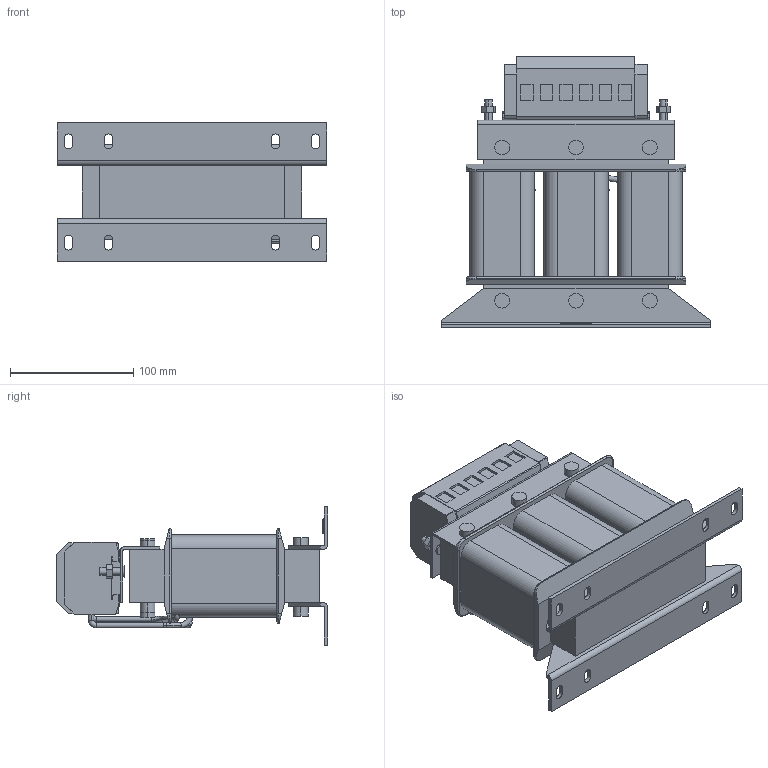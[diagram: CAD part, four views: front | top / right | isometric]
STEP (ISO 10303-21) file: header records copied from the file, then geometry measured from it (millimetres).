
FILE_DESCRIPTION (( 'STEP AP214' ), '1' );
FILE_NAME ('00Z1FX4-0018.STEP', '2022-08-15T13:51:17', ( '' ), ( '' ), 'SwSTEP 2.0', 'SolidWorks 2022', '' );
FILE_SCHEMA (( 'AUTOMOTIVE_DESIGN' ));
Length unit declared in the file: centimetre
Products named in the file (1): 00Z1FX4-0018
Bounding box: 219 x 220.8 x 112.3 mm (x, y, z)
Volume: 1831035.8 mm3; surface area: 209717 mm2
Topology: 1 solids, 1 shells, 486 faces, 1292 edges, 838 vertices
Faces by surface type: plane 238, cylinder 179, torus 47, bspline 22
Entity records: 17439 total; most frequent: CARTESIAN_POINT 5059, ORIENTED_EDGE 2584, DIRECTION 2470, EDGE_CURVE 1292, AXIS2_PLACEMENT_3D 885, VERTEX_POINT 838, VECTOR 700, LINE 700
